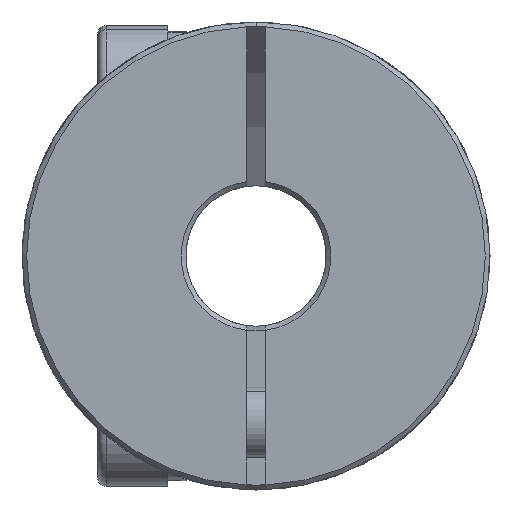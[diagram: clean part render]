
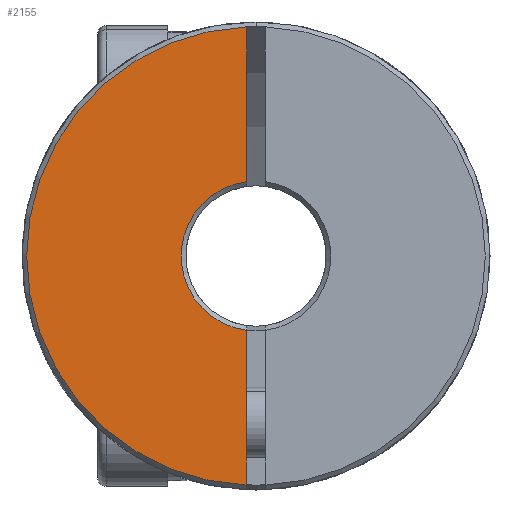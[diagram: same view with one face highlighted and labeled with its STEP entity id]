
A CAD part, front view. The second image highlights one B-rep face of the part: STEP entity #2155.
In plain terms, the highlighted planar face has unit normal (0, -1, 0).
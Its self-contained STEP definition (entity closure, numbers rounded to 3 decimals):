
#115 = VERTEX_POINT ( 'NONE', #3400 ) ;
#349 = DIRECTION ( 'NONE',  ( 0., 0., 1. ) ) ;
#366 = VERTEX_POINT ( 'NONE', #4000 ) ;
#458 = ORIENTED_EDGE ( 'NONE', *, *, #5858, .T. ) ;
#842 = VERTEX_POINT ( 'NONE', #1214 ) ;
#1068 = PLANE ( 'NONE',  #1656 ) ;
#1214 = CARTESIAN_POINT ( 'NONE',  ( -0.4, -17.5, -9.792 ) ) ;
#1392 = DIRECTION ( 'NONE',  ( 0., -1., 0. ) ) ;
#1529 = VECTOR ( 'NONE', #2258, 1000. ) ;
#1630 = EDGE_CURVE ( 'NONE', #366, #115, #3625, .T. ) ;
#1656 = AXIS2_PLACEMENT_3D ( 'NONE', #6881, #6834, #5741 ) ;
#1673 = CARTESIAN_POINT ( 'NONE',  ( -0.4, -17.5, 0. ) ) ;
#1778 = CIRCLE ( 'NONE', #2433, 3.2 ) ;
#2076 = VECTOR ( 'NONE', #4529, 1000. ) ;
#2155 = ADVANCED_FACE ( 'NONE', ( #3437 ), #1068, .F. ) ;
#2197 = ORIENTED_EDGE ( 'NONE', *, *, #2217, .F. ) ;
#2217 = EDGE_CURVE ( 'NONE', #7038, #842, #3081, .T. ) ;
#2258 = DIRECTION ( 'NONE',  ( 0., 0., -1. ) ) ;
#2281 = CARTESIAN_POINT ( 'NONE',  ( 0., -17.5, 0. ) ) ;
#2433 = AXIS2_PLACEMENT_3D ( 'NONE', #6165, #2644, #349 ) ;
#2644 = DIRECTION ( 'NONE',  ( 0., 1., 0. ) ) ;
#2779 = CIRCLE ( 'NONE', #5501, 9.8 ) ;
#3081 = LINE ( 'NONE', #1673, #1529 ) ;
#3400 = CARTESIAN_POINT ( 'NONE',  ( -0.4, -17.5, 3.175 ) ) ;
#3437 = FACE_OUTER_BOUND ( 'NONE', #6903, .T. ) ;
#3625 = LINE ( 'NONE', #6279, #2076 ) ;
#4000 = CARTESIAN_POINT ( 'NONE',  ( -0.4, -17.5, 9.792 ) ) ;
#4211 = ORIENTED_EDGE ( 'NONE', *, *, #6901, .T. ) ;
#4529 = DIRECTION ( 'NONE',  ( 0., 0., -1. ) ) ;
#5501 = AXIS2_PLACEMENT_3D ( 'NONE', #2281, #1392, #6651 ) ;
#5741 = DIRECTION ( 'NONE',  ( 0., 0., 1. ) ) ;
#5858 = EDGE_CURVE ( 'NONE', #7038, #115, #1778, .T. ) ;
#6165 = CARTESIAN_POINT ( 'NONE',  ( 0., -17.5, 0. ) ) ;
#6279 = CARTESIAN_POINT ( 'NONE',  ( -0.4, -17.5, 0. ) ) ;
#6429 = ORIENTED_EDGE ( 'NONE', *, *, #1630, .F. ) ;
#6485 = CARTESIAN_POINT ( 'NONE',  ( -0.4, -17.5, -3.175 ) ) ;
#6651 = DIRECTION ( 'NONE',  ( 0., 0., 1. ) ) ;
#6834 = DIRECTION ( 'NONE',  ( 0., 1., 0. ) ) ;
#6881 = CARTESIAN_POINT ( 'NONE',  ( 0., -17.5, 0. ) ) ;
#6901 = EDGE_CURVE ( 'NONE', #366, #842, #2779, .T. ) ;
#6903 = EDGE_LOOP ( 'NONE', ( #6429, #4211, #2197, #458 ) ) ;
#7038 = VERTEX_POINT ( 'NONE', #6485 ) ;
